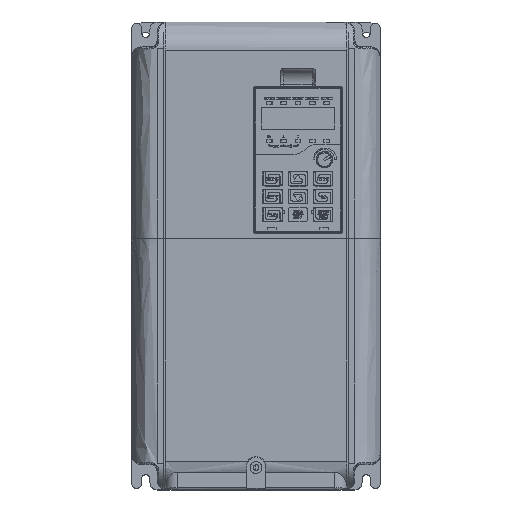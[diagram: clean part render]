
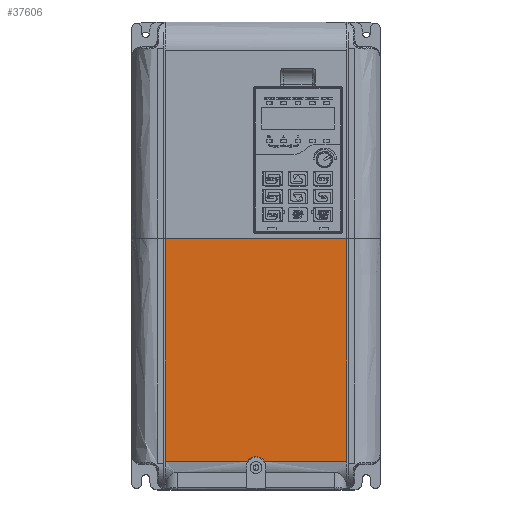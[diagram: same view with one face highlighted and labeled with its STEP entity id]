
A CAD part, top view. The second image highlights one B-rep face of the part: STEP entity #37606.
In plain terms, the highlighted planar face has unit normal (0, 0, 1).
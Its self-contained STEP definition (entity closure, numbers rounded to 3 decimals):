
#2781 = DIRECTION ( 'NONE',  ( -1., 0., 0. ) ) ;
#10679 = CARTESIAN_POINT ( 'NONE',  ( -78., 11.7, 197.5 ) ) ;
#13614 = ORIENTED_EDGE ( 'NONE', *, *, #113007, .T. ) ;
#16973 = VERTEX_POINT ( 'NONE', #62845 ) ;
#17270 = DIRECTION ( 'NONE',  ( 1., 0., 0. ) ) ;
#23154 = AXIS2_PLACEMENT_3D ( 'NONE', #56607, #65750, #17270 ) ;
#27210 = ORIENTED_EDGE ( 'NONE', *, *, #44933, .T. ) ;
#28711 = CARTESIAN_POINT ( 'NONE',  ( 62., -140.707, 197.5 ) ) ;
#29274 = LINE ( 'NONE', #129496, #90923 ) ;
#29765 = ORIENTED_EDGE ( 'NONE', *, *, #111772, .T. ) ;
#31759 = DIRECTION ( 'NONE',  ( 0., 0., -1. ) ) ;
#32592 = VERTEX_POINT ( 'NONE', #102182 ) ;
#34831 = LINE ( 'NONE', #36776, #129359 ) ;
#35618 = CARTESIAN_POINT ( 'NONE',  ( -78., -140.707, 197.5 ) ) ;
#35924 = CIRCLE ( 'NONE', #121652, 6.5 ) ;
#36559 = VECTOR ( 'NONE', #115491, 1000. ) ;
#36776 = CARTESIAN_POINT ( 'NONE',  ( -78., -140.707, 197.5 ) ) ;
#37606 = ADVANCED_FACE ( 'NONE', ( #84738 ), #126075, .T. ) ;
#38936 = CARTESIAN_POINT ( 'NONE',  ( -62., 11.7, 197.5 ) ) ;
#39260 = VERTEX_POINT ( 'NONE', #54130 ) ;
#39933 = ORIENTED_EDGE ( 'NONE', *, *, #118280, .T. ) ;
#44141 = VECTOR ( 'NONE', #2781, 1000. ) ;
#44933 = EDGE_CURVE ( 'NONE', #90738, #114949, #121391, .T. ) ;
#51371 = CARTESIAN_POINT ( 'NONE',  ( 0., -144., 197.5 ) ) ;
#54130 = CARTESIAN_POINT ( 'NONE',  ( -62., -140.707, 197.5 ) ) ;
#55998 = EDGE_CURVE ( 'NONE', #72311, #90738, #86922, .T. ) ;
#56607 = CARTESIAN_POINT ( 'NONE',  ( -78., -136., 197.5 ) ) ;
#57011 = CARTESIAN_POINT ( 'NONE',  ( 62., 11.7, 197.5 ) ) ;
#58626 = VECTOR ( 'NONE', #60710, 1000. ) ;
#60710 = DIRECTION ( 'NONE',  ( 0., 1., 0. ) ) ;
#62845 = CARTESIAN_POINT ( 'NONE',  ( 5.604, -140.707, 197.5 ) ) ;
#65750 = DIRECTION ( 'NONE',  ( 0., 0., 1. ) ) ;
#71611 = DIRECTION ( 'NONE',  ( 1., 0., 0. ) ) ;
#72311 = VERTEX_POINT ( 'NONE', #28711 ) ;
#75266 = ORIENTED_EDGE ( 'NONE', *, *, #122255, .T. ) ;
#82134 = ORIENTED_EDGE ( 'NONE', *, *, #55998, .T. ) ;
#84738 = FACE_OUTER_BOUND ( 'NONE', #101873, .T. ) ;
#86922 = LINE ( 'NONE', #98694, #58626 ) ;
#90738 = VERTEX_POINT ( 'NONE', #57011 ) ;
#90923 = VECTOR ( 'NONE', #108464, 1000. ) ;
#95648 = DIRECTION ( 'NONE',  ( 1., 0., 0. ) ) ;
#98694 = CARTESIAN_POINT ( 'NONE',  ( 62., -136., 197.5 ) ) ;
#101873 = EDGE_LOOP ( 'NONE', ( #39933, #13614, #75266, #82134, #27210, #29765 ) ) ;
#102182 = CARTESIAN_POINT ( 'NONE',  ( -5.604, -140.707, 197.5 ) ) ;
#108464 = DIRECTION ( 'NONE',  ( 0., -1., 0. ) ) ;
#111772 = EDGE_CURVE ( 'NONE', #114949, #39260, #29274, .T. ) ;
#113007 = EDGE_CURVE ( 'NONE', #32592, #16973, #35924, .T. ) ;
#114949 = VERTEX_POINT ( 'NONE', #38936 ) ;
#115491 = DIRECTION ( 'NONE',  ( 1., 0., 0. ) ) ;
#118280 = EDGE_CURVE ( 'NONE', #39260, #32592, #125343, .T. ) ;
#121391 = LINE ( 'NONE', #10679, #44141 ) ;
#121652 = AXIS2_PLACEMENT_3D ( 'NONE', #51371, #31759, #71611 ) ;
#122255 = EDGE_CURVE ( 'NONE', #16973, #72311, #34831, .T. ) ;
#125343 = LINE ( 'NONE', #35618, #36559 ) ;
#126075 = PLANE ( 'NONE',  #23154 ) ;
#129359 = VECTOR ( 'NONE', #95648, 1000. ) ;
#129496 = CARTESIAN_POINT ( 'NONE',  ( -62., -136., 197.5 ) ) ;
